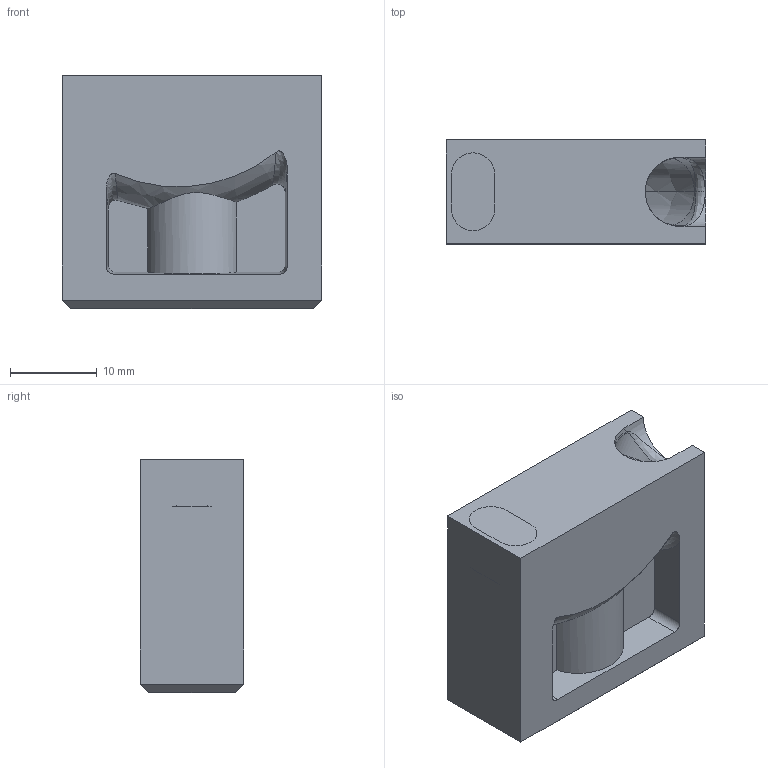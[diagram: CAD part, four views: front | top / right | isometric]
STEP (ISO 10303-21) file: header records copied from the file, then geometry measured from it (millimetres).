
FILE_DESCRIPTION((''),'2;1');
FILE_NAME('TGC3','2019-05-23T',('gsawatzky'),(''),'CREO PARAMETRIC BY PTC INC, 2016260','CREO PARAMETRIC BY PTC INC, 2016260','');
FILE_SCHEMA(('AUTOMOTIVE_DESIGN { 1 0 10303 214 1 1 1 1 }'));
Length unit declared in the file: millimetre
Products named in the file (1): TGC3
Bounding box: 30 x 12 x 27 mm (x, y, z)
Volume: 7273.3 mm3; surface area: 4434.2 mm2
Topology: 1 solids, 5 shells, 86 faces, 306 edges, 227 vertices
Faces by surface type: bspline 30, plane 26, cylinder 15, sphere 7, cone 6, torus 2
Entity records: 8709 total; most frequent: CARTESIAN_POINT 6138, ORIENTED_EDGE 394, DIRECTION 356, EDGE_CURVE 205, AXIS2_PLACEMENT_3D 129, VERTEX_POINT 128, B_SPLINE_CURVE_WITH_KNOTS 126, VECTOR 98
